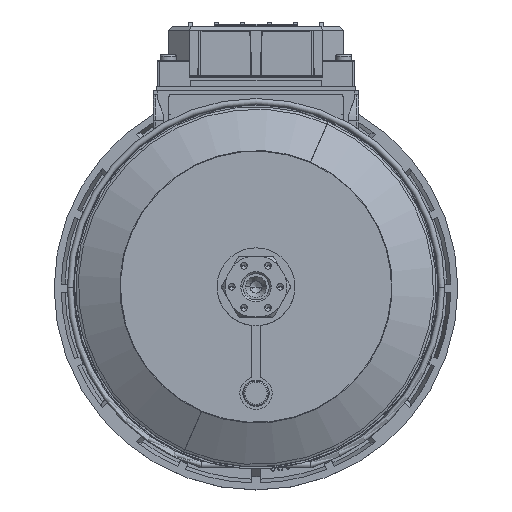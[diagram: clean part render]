
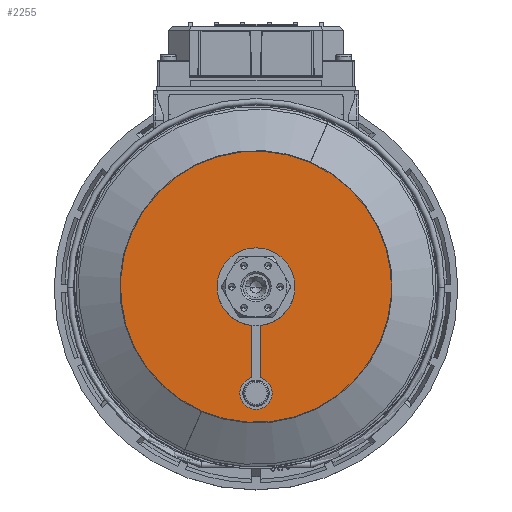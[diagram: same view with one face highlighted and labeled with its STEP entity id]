
A CAD part, top view. The second image highlights one B-rep face of the part: STEP entity #2255.
In plain terms, the highlighted planar face has unit normal (0, 0, 1) as drawn and (0, -1, 0) by its records, which use the part's own axes.
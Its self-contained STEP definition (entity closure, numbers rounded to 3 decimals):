
#2255 = ADVANCED_FACE ( 'NONE', ( #45927, #90348 ), #51348, .T. ) ;
#3048 = EDGE_LOOP ( 'NONE', ( #41904, #18411 ) ) ;
#3154 = EDGE_LOOP ( 'NONE', ( #56414, #61299 ) ) ;
#3722 = CARTESIAN_POINT ( 'NONE',  ( 0., 0., 67.5 ) ) ;
#5312 = AXIS2_PLACEMENT_3D ( 'NONE', #96994, #43895, #105919 ) ;
#6026 = AXIS2_PLACEMENT_3D ( 'NONE', #113368, #78120, #25095 ) ;
#13160 = EDGE_CURVE ( 'NONE', #43437, #86709, #73162, .T. ) ;
#13914 = CARTESIAN_POINT ( 'NONE',  ( 0., 0., -13.5 ) ) ;
#14704 = CIRCLE ( 'NONE', #94234, 13.5 ) ;
#16855 = DIRECTION ( 'NONE',  ( 0., 1., 0. ) ) ;
#17233 = CARTESIAN_POINT ( 'NONE',  ( 0., 0., 13.5 ) ) ;
#18411 = ORIENTED_EDGE ( 'NONE', *, *, #13160, .F. ) ;
#25095 = DIRECTION ( 'NONE',  ( 0., 0., -1. ) ) ;
#27286 = EDGE_CURVE ( 'NONE', #86709, #43437, #72648, .T. ) ;
#28011 = CARTESIAN_POINT ( 'NONE',  ( 0., 0., -67.5 ) ) ;
#37174 = DIRECTION ( 'NONE',  ( 0., 1., 0. ) ) ;
#37670 = DIRECTION ( 'NONE',  ( 0., 1., 0. ) ) ;
#41904 = ORIENTED_EDGE ( 'NONE', *, *, #27286, .F. ) ;
#43437 = VERTEX_POINT ( 'NONE', #28011 ) ;
#43895 = DIRECTION ( 'NONE',  ( 0., 1., 0. ) ) ;
#45927 = FACE_BOUND ( 'NONE', #3154, .T. ) ;
#48668 = AXIS2_PLACEMENT_3D ( 'NONE', #90310, #37174, #99213 ) ;
#51348 = PLANE ( 'NONE',  #6026 ) ;
#56414 = ORIENTED_EDGE ( 'NONE', *, *, #63082, .T. ) ;
#61299 = ORIENTED_EDGE ( 'NONE', *, *, #103528, .T. ) ;
#63082 = EDGE_CURVE ( 'NONE', #113281, #101567, #14704, .T. ) ;
#64949 = AXIS2_PLACEMENT_3D ( 'NONE', #90828, #37670, #99718 ) ;
#69895 = CARTESIAN_POINT ( 'NONE',  ( 0., 0., 0. ) ) ;
#72648 = CIRCLE ( 'NONE', #48668, 67.5 ) ;
#73162 = CIRCLE ( 'NONE', #5312, 67.5 ) ;
#78085 = CIRCLE ( 'NONE', #64949, 13.5 ) ;
#78120 = DIRECTION ( 'NONE',  ( 0., -1., 0. ) ) ;
#78815 = DIRECTION ( 'NONE',  ( 0., 0., 1. ) ) ;
#86709 = VERTEX_POINT ( 'NONE', #3722 ) ;
#90310 = CARTESIAN_POINT ( 'NONE',  ( 0., 0., 0. ) ) ;
#90348 = FACE_OUTER_BOUND ( 'NONE', #3048, .T. ) ;
#90828 = CARTESIAN_POINT ( 'NONE',  ( 0., 0., 0. ) ) ;
#94234 = AXIS2_PLACEMENT_3D ( 'NONE', #69895, #16855, #78815 ) ;
#96994 = CARTESIAN_POINT ( 'NONE',  ( 0., 0., 0. ) ) ;
#99213 = DIRECTION ( 'NONE',  ( 0., 0., 1. ) ) ;
#99718 = DIRECTION ( 'NONE',  ( 0., 0., 1. ) ) ;
#101567 = VERTEX_POINT ( 'NONE', #13914 ) ;
#103528 = EDGE_CURVE ( 'NONE', #101567, #113281, #78085, .T. ) ;
#105919 = DIRECTION ( 'NONE',  ( 0., 0., 1. ) ) ;
#113281 = VERTEX_POINT ( 'NONE', #17233 ) ;
#113368 = CARTESIAN_POINT ( 'NONE',  ( -13.5, 0., 0. ) ) ;
